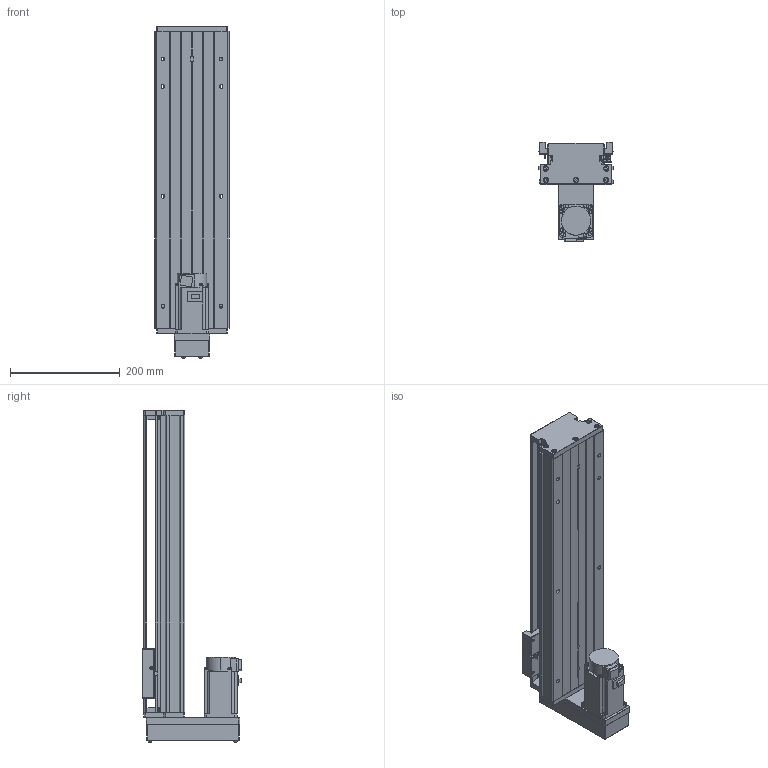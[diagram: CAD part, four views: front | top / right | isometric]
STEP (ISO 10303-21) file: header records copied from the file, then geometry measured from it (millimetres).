
FILE_DESCRIPTION (( 'STEP AP203' ), '1' );
FILE_NAME ('KTH130-400-BM-M40-C4.step', '2023-06-30T04:04:26', ( '微软用户' ), ( '微软中国' ), 'SwSTEP 2.0', 'SolidWorks 2020', '' );
FILE_SCHEMA (( 'CONFIG_CONTROL_DESIGN' ));
Length unit declared in the file: millimetre
Products named in the file (19): GBT 70.2-M3¡Á5_M3¡Á6; GBT 70.3-M3℅8; GTH14-001_400; CTHA60-017; HG-KN43J-S100; KTH130-002_KTH130-002; EE_SX911P_R; GBT 70.2-M4¡Á35_M4¡Á35; KTH130-004; CTHA60-016; GTH14-015-2_CTHA86-015-2; KTH130-005; GBT 70.1-M3℅5; GTH14-033; GB1155-6X6; GBT77-2000 M3×3; KTH130-400-BM-M40-C4; GBT70.1 M5℅16; す晦芛蹟隊 M3℅5
Assembly tree (53 placements, depth 2):
  KTH130-400-BM-M40-C4
    GTH14-001_400
    KTH130-002_KTH130-002
    KTH130-004
    KTH130-005
    GB1155-6X6  x2
    GBT70.1 M5℅16  x10
    GBT 70.2-M3¡Á5_M3¡Á6  x4
    CTHA60-017  x3
    EE_SX911P_R  x3
    CTHA60-016  x2
    GBT 70.1-M3℅5  x6
    GBT77-2000 M3×3  x6
    す晦芛蹟隊 M3℅5  x2
    GBT 70.3-M3℅8  x4
    HG-KN43J-S100
    GBT 70.2-M4¡Á35_M4¡Á35  x4
    GTH14-015-2_CTHA86-015-2
    GTH14-033
Bounding box: 135 x 181.8 x 604.2 mm (x, y, z)
Volume: 3618144.8 mm3; surface area: 622092.4 mm2
Topology: 56 solids, 56 shells, 2213 faces, 5342 edges, 3326 vertices
Faces by surface type: plane 1195, cylinder 604, cone 290, torus 100, sphere 24
Entity records: 40250 total; most frequent: CARTESIAN_POINT 8584, DIRECTION 5979, ORIENTED_EDGE 5884, EDGE_CURVE 2942, AXIS2_PLACEMENT_3D 2052, VERTEX_POINT 1879, VECTOR 1875, LINE 1875
